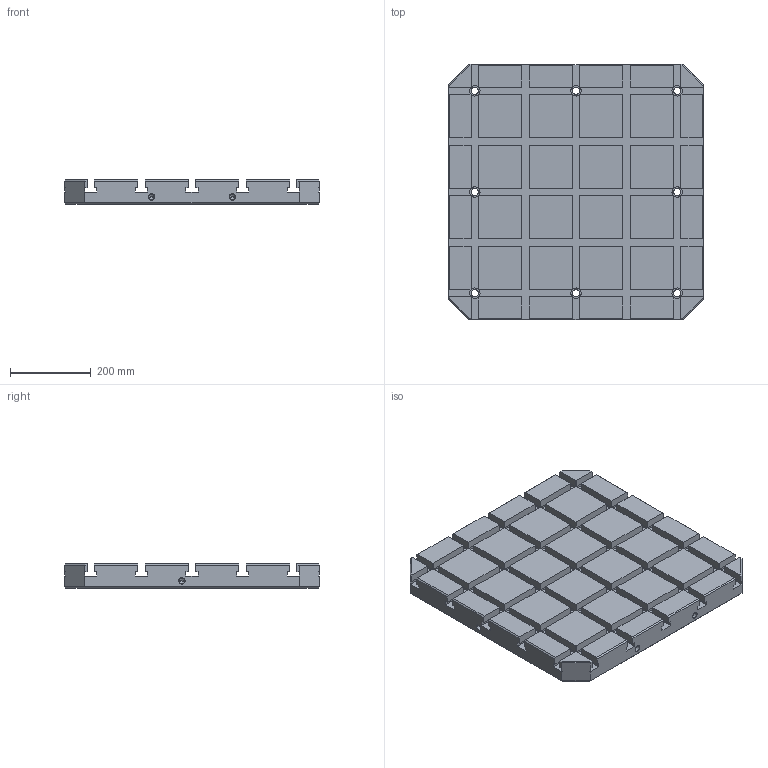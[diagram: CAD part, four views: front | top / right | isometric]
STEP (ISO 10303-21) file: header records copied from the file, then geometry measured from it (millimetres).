
FILE_DESCRIPTION((''),'2;1');
FILE_NAME('FG_WH_BASPL_SQT18NP003','2026-05-17T14:56:01',('Admin'),(''),'CREO PARAMETRIC BY PTC INC, 2025010','CREO PARAMETRIC BY PTC INC, 2025010','');
FILE_SCHEMA(('CONFIG_CONTROL_DESIGN'));
Length unit declared in the file: millimetre
Products named in the file (1): FG_WH_BASPL_SQT18NP003
Bounding box: 630 x 630 x 60 mm (x, y, z)
Volume: 19557470.5 mm3; surface area: 1362011.1 mm2
Topology: 1 solids, 4 shells, 459 faces, 1210 edges, 793 vertices
Faces by surface type: plane 377, cylinder 76, cone 6
Entity records: 14014 total; most frequent: CARTESIAN_POINT 2457, ORIENTED_EDGE 2396, DIRECTION 2282, EDGE_CURVE 1204, VECTOR 1046, LINE 1046, VERTEX_POINT 793, AXIS2_PLACEMENT_3D 618
